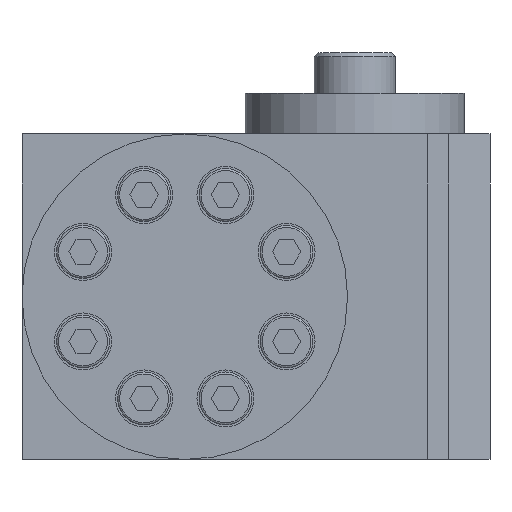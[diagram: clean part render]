
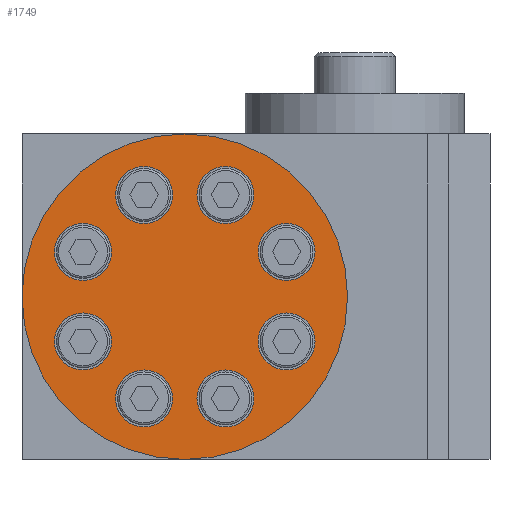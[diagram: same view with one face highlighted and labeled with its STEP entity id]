
A CAD part, left-side view. The second image highlights one B-rep face of the part: STEP entity #1749.
In plain terms, the highlighted planar face has unit normal (-1, 0, 0).
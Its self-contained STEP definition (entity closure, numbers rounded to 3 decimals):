
#443=PLANE('',#11025);
#1036=FACE_BOUND('',#3133,.T.);
#1037=FACE_BOUND('',#3134,.T.);
#1038=FACE_BOUND('',#3135,.T.);
#1039=FACE_BOUND('',#3136,.T.);
#1040=FACE_BOUND('',#3137,.T.);
#1041=FACE_BOUND('',#3138,.T.);
#1042=FACE_BOUND('',#3139,.T.);
#1043=FACE_BOUND('',#3140,.T.);
#1044=FACE_BOUND('',#3141,.T.);
#1749=ADVANCED_FACE('',(#1036,#1037,#1038,#1039,#1040,#1041,#1042,#1043,
#1044),#443,.F.);
#3133=EDGE_LOOP('',(#5475));
#3134=EDGE_LOOP('',(#5476));
#3135=EDGE_LOOP('',(#5477));
#3136=EDGE_LOOP('',(#5478));
#3137=EDGE_LOOP('',(#5479));
#3138=EDGE_LOOP('',(#5480));
#3139=EDGE_LOOP('',(#5481));
#3140=EDGE_LOOP('',(#5482));
#3141=EDGE_LOOP('',(#5483));
#4035=CIRCLE('',#11014,40.);
#4037=CIRCLE('',#11017,7.);
#4038=CIRCLE('',#11018,7.);
#4039=CIRCLE('',#11019,7.);
#4040=CIRCLE('',#11020,7.);
#4041=CIRCLE('',#11021,7.);
#4042=CIRCLE('',#11022,7.);
#4043=CIRCLE('',#11023,7.);
#4044=CIRCLE('',#11024,7.);
#5475=ORIENTED_EDGE('',*,*,#8344,.T.);
#5476=ORIENTED_EDGE('',*,*,#8345,.T.);
#5477=ORIENTED_EDGE('',*,*,#8346,.T.);
#5478=ORIENTED_EDGE('',*,*,#8347,.T.);
#5479=ORIENTED_EDGE('',*,*,#8348,.T.);
#5480=ORIENTED_EDGE('',*,*,#8349,.T.);
#5481=ORIENTED_EDGE('',*,*,#8350,.T.);
#5482=ORIENTED_EDGE('',*,*,#8351,.T.);
#5483=ORIENTED_EDGE('',*,*,#8342,.F.);
#7229=VERTEX_POINT('',#33357);
#7231=VERTEX_POINT('',#33362);
#7232=VERTEX_POINT('',#33364);
#7233=VERTEX_POINT('',#33366);
#7234=VERTEX_POINT('',#33368);
#7235=VERTEX_POINT('',#33370);
#7236=VERTEX_POINT('',#33372);
#7237=VERTEX_POINT('',#33374);
#7238=VERTEX_POINT('',#33376);
#8342=EDGE_CURVE('',#7229,#7229,#4035,.T.);
#8344=EDGE_CURVE('',#7231,#7231,#4037,.T.);
#8345=EDGE_CURVE('',#7232,#7232,#4038,.T.);
#8346=EDGE_CURVE('',#7233,#7233,#4039,.T.);
#8347=EDGE_CURVE('',#7234,#7234,#4040,.T.);
#8348=EDGE_CURVE('',#7235,#7235,#4041,.T.);
#8349=EDGE_CURVE('',#7236,#7236,#4042,.T.);
#8350=EDGE_CURVE('',#7237,#7237,#4043,.T.);
#8351=EDGE_CURVE('',#7238,#7238,#4044,.T.);
#11014=AXIS2_PLACEMENT_3D('',#33356,#12977,#12978);
#11017=AXIS2_PLACEMENT_3D('',#33361,#12983,#12984);
#11018=AXIS2_PLACEMENT_3D('',#33363,#12985,#12986);
#11019=AXIS2_PLACEMENT_3D('',#33365,#12987,#12988);
#11020=AXIS2_PLACEMENT_3D('',#33367,#12989,#12990);
#11021=AXIS2_PLACEMENT_3D('',#33369,#12991,#12992);
#11022=AXIS2_PLACEMENT_3D('',#33371,#12993,#12994);
#11023=AXIS2_PLACEMENT_3D('',#33373,#12995,#12996);
#11024=AXIS2_PLACEMENT_3D('',#33375,#12997,#12998);
#11025=AXIS2_PLACEMENT_3D('',#33377,#12999,#13000);
#12977=DIRECTION('',(1.,0.,0.));
#12978=DIRECTION('',(0.,1.,0.));
#12983=DIRECTION('',(1.,0.,0.));
#12984=DIRECTION('',(0.,0.,-1.));
#12985=DIRECTION('',(1.,0.,0.));
#12986=DIRECTION('',(0.,0.,-1.));
#12987=DIRECTION('',(1.,0.,0.));
#12988=DIRECTION('',(0.,0.,-1.));
#12989=DIRECTION('',(1.,0.,0.));
#12990=DIRECTION('',(0.,0.,-1.));
#12991=DIRECTION('',(1.,0.,0.));
#12992=DIRECTION('',(0.,0.,-1.));
#12993=DIRECTION('',(1.,0.,0.));
#12994=DIRECTION('',(0.,0.,-1.));
#12995=DIRECTION('',(1.,0.,0.));
#12996=DIRECTION('',(0.,0.,-1.));
#12997=DIRECTION('',(1.,0.,0.));
#12998=DIRECTION('',(0.,0.,-1.));
#12999=DIRECTION('',(1.,0.,0.));
#13000=DIRECTION('',(0.,0.,-1.));
#33356=CARTESIAN_POINT('',(-92.,17.683,40.));
#33357=CARTESIAN_POINT('',(-92.,57.683,40.));
#33361=CARTESIAN_POINT('',(-92.,42.683,29.));
#33362=CARTESIAN_POINT('',(-92.,42.683,22.));
#33363=CARTESIAN_POINT('',(-92.,-7.317,29.));
#33364=CARTESIAN_POINT('',(-92.,-7.317,22.));
#33365=CARTESIAN_POINT('',(-92.,-7.317,51.));
#33366=CARTESIAN_POINT('',(-92.,-7.317,44.));
#33367=CARTESIAN_POINT('',(-92.,42.683,51.));
#33368=CARTESIAN_POINT('',(-92.,42.683,44.));
#33369=CARTESIAN_POINT('',(-92.,27.683,15.));
#33370=CARTESIAN_POINT('',(-92.,27.683,8.));
#33371=CARTESIAN_POINT('',(-92.,7.683,15.));
#33372=CARTESIAN_POINT('',(-92.,7.683,8.));
#33373=CARTESIAN_POINT('',(-92.,7.683,65.));
#33374=CARTESIAN_POINT('',(-92.,7.683,58.));
#33375=CARTESIAN_POINT('',(-92.,27.683,65.));
#33376=CARTESIAN_POINT('',(-92.,27.683,58.));
#33377=CARTESIAN_POINT('',(-92.,17.683,40.));
